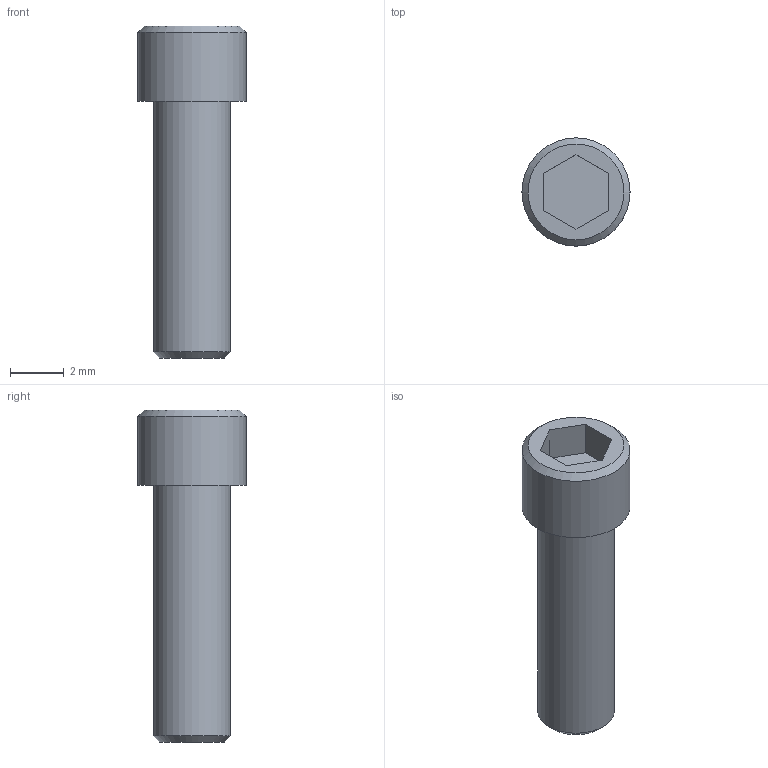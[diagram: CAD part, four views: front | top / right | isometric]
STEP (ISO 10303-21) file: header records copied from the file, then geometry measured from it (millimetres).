
FILE_DESCRIPTION((''),'2;1');
FILE_NAME('C:\Users\Stan\Desktop\import\SHCS 4-40 UNCx0.375.ipt.step','2011-08-18T17:44:29',(''),(''),'Autodesk Inventor 2012','Autodesk Inventor 2012','');
FILE_SCHEMA(('AUTOMOTIVE_DESIGN { 1 0 10303 214 1 1 1 1 }'));
Length unit declared in the file: inch
Products named in the file (1): SHCS 4-40 UNCx0.375
Bounding box: 4.01 x 4.01 x 12.32 mm (x, y, z)
Volume: 89 mm3; surface area: 153.3 mm2
Topology: 1 solids, 1 shells, 14 faces, 28 edges, 18 vertices
Faces by surface type: plane 10, cone 2, cylinder 2
Full cylindrical faces by diameter (mm): 2.845 x1, 4.013 x1
Entity records: 391 total; most frequent: DIRECTION 60, CARTESIAN_POINT 57, ORIENTED_EDGE 48, EDGE_CURVE 24, AXIS2_PLACEMENT_3D 21, EDGE_LOOP 20, VERTEX_POINT 18, VECTOR 18
